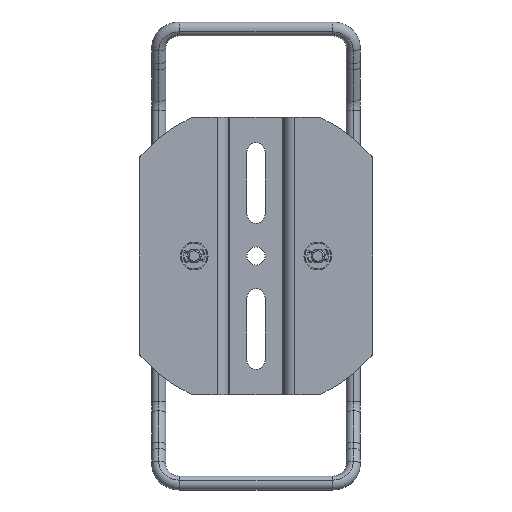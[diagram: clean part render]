
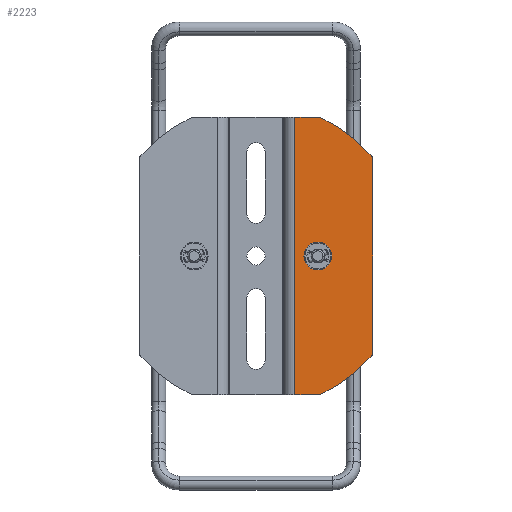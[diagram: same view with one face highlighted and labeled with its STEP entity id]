
A CAD part, front view. The second image highlights one B-rep face of the part: STEP entity #2223.
In plain terms, the highlighted planar face has unit normal (0, -1, 0).
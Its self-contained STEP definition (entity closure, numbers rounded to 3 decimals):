
#448=DIRECTION('',(0.,0.,1.));
#449=VECTOR('',#448,200.);
#450=CARTESIAN_POINT('',(27.9,-29.,-100.));
#451=LINE('',#450,#449);
#478=CARTESIAN_POINT('',(44.5,-29.,0.));
#479=DIRECTION('',(0.,-1.,0.));
#480=DIRECTION('',(1.,0.,0.));
#481=AXIS2_PLACEMENT_3D('',#478,#479,#480);
#486=CARTESIAN_POINT('',(44.5,-29.,0.));
#487=DIRECTION('',(0.,-1.,0.));
#488=DIRECTION('',(-1.,0.,0.));
#489=AXIS2_PLACEMENT_3D('',#486,#487,#488);
#494=CARTESIAN_POINT('',(0.,-29.,0.));
#495=DIRECTION('',(0.,1.,0.));
#496=DIRECTION('',(0.417,0.,0.909));
#497=AXIS2_PLACEMENT_3D('',#494,#495,#496);
#502=CARTESIAN_POINT('',(79.,-29.,69.166));
#503=DIRECTION('',(0.,-1.,0.));
#504=DIRECTION('',(1.,0.,0.));
#505=AXIS2_PLACEMENT_3D('',#502,#503,#504);
#510=CARTESIAN_POINT('',(79.,-29.,-69.166));
#511=DIRECTION('',(0.,-1.,0.));
#512=DIRECTION('',(0.752,0.,-0.659));
#513=AXIS2_PLACEMENT_3D('',#510,#511,#512);
#518=CARTESIAN_POINT('',(0.,-29.,0.));
#519=DIRECTION('',(0.,1.,0.));
#520=DIRECTION('',(0.752,0.,-0.659));
#521=AXIS2_PLACEMENT_3D('',#518,#519,#520);
#804=DIRECTION('',(-1.,0.,0.));
#805=VECTOR('',#804,17.926);
#806=CARTESIAN_POINT('',(45.826,-29.,100.));
#807=LINE('',#806,#805);
#904=DIRECTION('',(0.,0.,1.));
#905=VECTOR('',#904,138.333);
#906=CARTESIAN_POINT('',(84.,-29.,-69.166));
#907=LINE('',#906,#905);
#925=DIRECTION('',(1.,0.,0.));
#926=VECTOR('',#925,17.926);
#927=CARTESIAN_POINT('',(27.9,-29.,-100.));
#928=LINE('',#927,#926);
#1695=CARTESIAN_POINT('',(54.5,-29.,0.));
#1696=CARTESIAN_POINT('',(34.5,-29.,0.));
#1697=VERTEX_POINT('',#1695);
#1698=VERTEX_POINT('',#1696);
#1755=CARTESIAN_POINT('',(27.9,-29.,-100.));
#1757=VERTEX_POINT('',#1755);
#1787=CARTESIAN_POINT('',(27.9,-29.,100.));
#1789=VERTEX_POINT('',#1787);
#1811=CARTESIAN_POINT('',(45.826,-29.,100.));
#1812=CARTESIAN_POINT('',(82.762,-29.,72.46));
#1813=VERTEX_POINT('',#1811);
#1814=VERTEX_POINT('',#1812);
#1815=CARTESIAN_POINT('',(82.762,-29.,-72.46));
#1816=CARTESIAN_POINT('',(45.826,-29.,-100.));
#1817=VERTEX_POINT('',#1815);
#1818=VERTEX_POINT('',#1816);
#1827=CARTESIAN_POINT('',(84.,-29.,69.166));
#1828=VERTEX_POINT('',#1827);
#1833=CARTESIAN_POINT('',(84.,-29.,-69.166));
#1834=VERTEX_POINT('',#1833);
#2195=CARTESIAN_POINT('',(20.,-29.,25.));
#2196=DIRECTION('',(0.,1.,0.));
#2197=DIRECTION('',(0.,0.,1.));
#2198=AXIS2_PLACEMENT_3D('',#2195,#2196,#2197);
#2199=PLANE('',#2198);
#2201=ORIENTED_EDGE('',*,*,#2200,.T.);
#2203=ORIENTED_EDGE('',*,*,#2202,.F.);
#2205=ORIENTED_EDGE('',*,*,#2204,.F.);
#2207=ORIENTED_EDGE('',*,*,#2206,.F.);
#2209=ORIENTED_EDGE('',*,*,#2208,.T.);
#2211=ORIENTED_EDGE('',*,*,#2210,.F.);
#2212=ORIENTED_EDGE('',*,*,#2179,.T.);
#2214=ORIENTED_EDGE('',*,*,#2213,.F.);
#2215=EDGE_LOOP('',(#2201,#2203,#2205,#2207,#2209,#2211,#2212,#2214));
#2216=FACE_OUTER_BOUND('',#2215,.F.);
#2218=ORIENTED_EDGE('',*,*,#2217,.T.);
#2220=ORIENTED_EDGE('',*,*,#2219,.T.);
#2221=EDGE_LOOP('',(#2218,#2220));
#2222=FACE_BOUND('',#2221,.F.);
#482=CIRCLE('',#481,10.);
#490=CIRCLE('',#489,10.);
#498=CIRCLE('',#497,110.);
#506=CIRCLE('',#505,5.);
#514=CIRCLE('',#513,5.);
#522=CIRCLE('',#521,110.);
#2179=EDGE_CURVE('',#1757,#1789,#451,.T.);
#2200=EDGE_CURVE('',#1813,#1814,#498,.T.);
#2202=EDGE_CURVE('',#1828,#1814,#506,.T.);
#2204=EDGE_CURVE('',#1834,#1828,#907,.T.);
#2206=EDGE_CURVE('',#1817,#1834,#514,.T.);
#2208=EDGE_CURVE('',#1817,#1818,#522,.T.);
#2210=EDGE_CURVE('',#1757,#1818,#928,.T.);
#2213=EDGE_CURVE('',#1813,#1789,#807,.T.);
#2217=EDGE_CURVE('',#1697,#1698,#482,.T.);
#2219=EDGE_CURVE('',#1698,#1697,#490,.T.);
#2223=ADVANCED_FACE('',(#2216,#2222),#2199,.F.);
